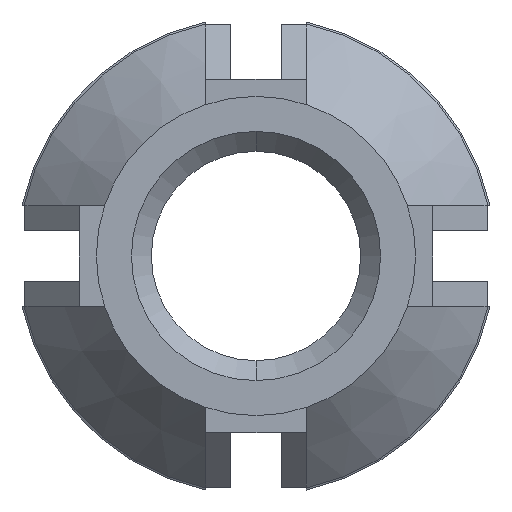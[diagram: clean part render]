
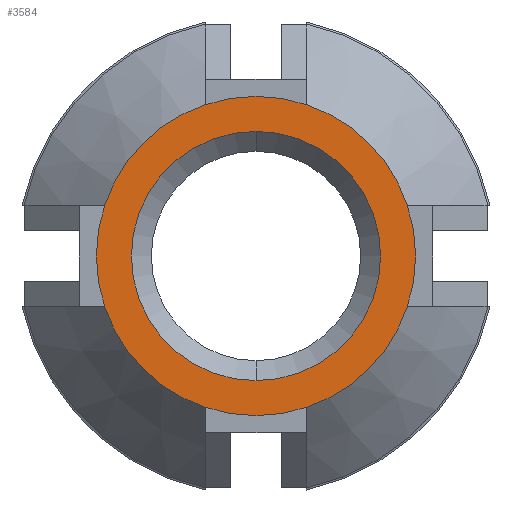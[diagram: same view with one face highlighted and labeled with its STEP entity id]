
A CAD part, front view. The second image highlights one B-rep face of the part: STEP entity #3584.
In plain terms, the highlighted planar face has unit normal (0, -1, 0).
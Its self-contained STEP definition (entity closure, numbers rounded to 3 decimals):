
#21 = CIRCLE ( 'NONE', #947, 3.175 ) ;
#25 = EDGE_CURVE ( 'NONE', #2876, #2709, #2178, .T. ) ;
#40 = EDGE_CURVE ( 'NONE', #694, #2876, #21, .T. ) ;
#64 = AXIS2_PLACEMENT_3D ( 'NONE', #1627, #3101, #317 ) ;
#65 = DIRECTION ( 'NONE',  ( 0., -1., 0. ) ) ;
#90 = ORIENTED_EDGE ( 'NONE', *, *, #2402, .T. ) ;
#121 = DIRECTION ( 'NONE',  ( 0., -1., 0. ) ) ;
#150 = ORIENTED_EDGE ( 'NONE', *, *, #699, .T. ) ;
#170 = VERTEX_POINT ( 'NONE', #1063 ) ;
#182 = ORIENTED_EDGE ( 'NONE', *, *, #40, .T. ) ;
#202 = CARTESIAN_POINT ( 'NONE',  ( 1., -7.874, -3.014 ) ) ;
#220 = AXIS2_PLACEMENT_3D ( 'NONE', #2215, #1417, #1657 ) ;
#250 = DIRECTION ( 'NONE',  ( 0., -1., 0. ) ) ;
#264 = CIRCLE ( 'NONE', #3468, 2.48 ) ;
#317 = DIRECTION ( 'NONE',  ( 1., 0., 0. ) ) ;
#505 = VERTEX_POINT ( 'NONE', #2380 ) ;
#571 = DIRECTION ( 'NONE',  ( 0., 0., 1. ) ) ;
#614 = CARTESIAN_POINT ( 'NONE',  ( 1., -7.874, 3.014 ) ) ;
#622 = CARTESIAN_POINT ( 'NONE',  ( 0., -7.874, 0. ) ) ;
#691 = CIRCLE ( 'NONE', #64, 3.175 ) ;
#693 = AXIS2_PLACEMENT_3D ( 'NONE', #2895, #65, #1174 ) ;
#694 = VERTEX_POINT ( 'NONE', #2494 ) ;
#699 = EDGE_CURVE ( 'NONE', #505, #2161, #1336, .T. ) ;
#707 = EDGE_LOOP ( 'NONE', ( #2055, #90, #182, #835, #2724, #743, #1244, #150 ) ) ;
#710 = EDGE_CURVE ( 'NONE', #3316, #505, #691, .T. ) ;
#730 = DIRECTION ( 'NONE',  ( 0., 1., 0. ) ) ;
#742 = CARTESIAN_POINT ( 'NONE',  ( 0., -7.874, 0. ) ) ;
#743 = ORIENTED_EDGE ( 'NONE', *, *, #831, .T. ) ;
#831 = EDGE_CURVE ( 'NONE', #1369, #3316, #1632, .T. ) ;
#835 = ORIENTED_EDGE ( 'NONE', *, *, #25, .T. ) ;
#849 = FACE_OUTER_BOUND ( 'NONE', #707, .T. ) ;
#875 = DIRECTION ( 'NONE',  ( 0., 0., 1. ) ) ;
#947 = AXIS2_PLACEMENT_3D ( 'NONE', #2299, #1452, #3414 ) ;
#962 = AXIS2_PLACEMENT_3D ( 'NONE', #742, #3211, #1040 ) ;
#1040 = DIRECTION ( 'NONE',  ( 0., 0., 1. ) ) ;
#1063 = CARTESIAN_POINT ( 'NONE',  ( 0., -7.874, 2.48 ) ) ;
#1074 = DIRECTION ( 'NONE',  ( 0., 0., -1. ) ) ;
#1161 = CARTESIAN_POINT ( 'NONE',  ( 3.014, -7.874, 1. ) ) ;
#1174 = DIRECTION ( 'NONE',  ( 0., 0., 1. ) ) ;
#1181 = DIRECTION ( 'NONE',  ( 0., 0., 1. ) ) ;
#1221 = ORIENTED_EDGE ( 'NONE', *, *, #1516, .T. ) ;
#1244 = ORIENTED_EDGE ( 'NONE', *, *, #710, .T. ) ;
#1306 = CIRCLE ( 'NONE', #2005, 3.175 ) ;
#1336 = CIRCLE ( 'NONE', #2277, 3.175 ) ;
#1369 = VERTEX_POINT ( 'NONE', #1161 ) ;
#1417 = DIRECTION ( 'NONE',  ( 0., 1., 0. ) ) ;
#1422 = CIRCLE ( 'NONE', #2000, 2.48 ) ;
#1452 = DIRECTION ( 'NONE',  ( 0., -1., 0. ) ) ;
#1516 = EDGE_CURVE ( 'NONE', #170, #3419, #264, .T. ) ;
#1543 = EDGE_CURVE ( 'NONE', #3419, #170, #1422, .T. ) ;
#1579 = AXIS2_PLACEMENT_3D ( 'NONE', #2039, #2908, #1181 ) ;
#1618 = FACE_BOUND ( 'NONE', #3066, .T. ) ;
#1627 = CARTESIAN_POINT ( 'NONE',  ( 0., -7.874, 0. ) ) ;
#1632 = CIRCLE ( 'NONE', #693, 3.175 ) ;
#1657 = DIRECTION ( 'NONE',  ( 0., 0., 1. ) ) ;
#1672 = AXIS2_PLACEMENT_3D ( 'NONE', #3042, #1936, #1074 ) ;
#1731 = EDGE_CURVE ( 'NONE', #2161, #2793, #1306, .T. ) ;
#1936 = DIRECTION ( 'NONE',  ( 0., -1., 0. ) ) ;
#2000 = AXIS2_PLACEMENT_3D ( 'NONE', #2366, #2420, #2146 ) ;
#2005 = AXIS2_PLACEMENT_3D ( 'NONE', #622, #121, #875 ) ;
#2039 = CARTESIAN_POINT ( 'NONE',  ( 0., -7.874, 0. ) ) ;
#2055 = ORIENTED_EDGE ( 'NONE', *, *, #1731, .T. ) ;
#2146 = DIRECTION ( 'NONE',  ( 0., 0., 1. ) ) ;
#2153 = CARTESIAN_POINT ( 'NONE',  ( -3.014, -7.874, -1. ) ) ;
#2161 = VERTEX_POINT ( 'NONE', #2788 ) ;
#2178 = CIRCLE ( 'NONE', #1579, 3.175 ) ;
#2215 = CARTESIAN_POINT ( 'NONE',  ( 0., -7.874, 0. ) ) ;
#2277 = AXIS2_PLACEMENT_3D ( 'NONE', #3373, #250, #571 ) ;
#2299 = CARTESIAN_POINT ( 'NONE',  ( 0., -7.874, 0. ) ) ;
#2366 = CARTESIAN_POINT ( 'NONE',  ( 0., -7.874, 0. ) ) ;
#2380 = CARTESIAN_POINT ( 'NONE',  ( -1., -7.874, 3.014 ) ) ;
#2402 = EDGE_CURVE ( 'NONE', #2793, #694, #3077, .T. ) ;
#2420 = DIRECTION ( 'NONE',  ( 0., 1., 0. ) ) ;
#2442 = DIRECTION ( 'NONE',  ( 0., 0., 1. ) ) ;
#2494 = CARTESIAN_POINT ( 'NONE',  ( -1., -7.874, -3.014 ) ) ;
#2653 = ORIENTED_EDGE ( 'NONE', *, *, #1543, .T. ) ;
#2709 = VERTEX_POINT ( 'NONE', #3454 ) ;
#2724 = ORIENTED_EDGE ( 'NONE', *, *, #3149, .T. ) ;
#2788 = CARTESIAN_POINT ( 'NONE',  ( -3.014, -7.874, 1. ) ) ;
#2793 = VERTEX_POINT ( 'NONE', #2153 ) ;
#2876 = VERTEX_POINT ( 'NONE', #202 ) ;
#2895 = CARTESIAN_POINT ( 'NONE',  ( 0., -7.874, 0. ) ) ;
#2908 = DIRECTION ( 'NONE',  ( 0., -1., 0. ) ) ;
#3042 = CARTESIAN_POINT ( 'NONE',  ( 0., -7.874, 0. ) ) ;
#3066 = EDGE_LOOP ( 'NONE', ( #2653, #1221 ) ) ;
#3077 = CIRCLE ( 'NONE', #962, 3.175 ) ;
#3101 = DIRECTION ( 'NONE',  ( 0., -1., 0. ) ) ;
#3137 = CIRCLE ( 'NONE', #1672, 3.175 ) ;
#3149 = EDGE_CURVE ( 'NONE', #2709, #1369, #3137, .T. ) ;
#3211 = DIRECTION ( 'NONE',  ( 0., -1., 0. ) ) ;
#3222 = CARTESIAN_POINT ( 'NONE',  ( 0., -7.874, -2.48 ) ) ;
#3316 = VERTEX_POINT ( 'NONE', #614 ) ;
#3373 = CARTESIAN_POINT ( 'NONE',  ( 0., -7.874, 0. ) ) ;
#3414 = DIRECTION ( 'NONE',  ( -1., 0., 0. ) ) ;
#3419 = VERTEX_POINT ( 'NONE', #3222 ) ;
#3454 = CARTESIAN_POINT ( 'NONE',  ( 3.014, -7.874, -1. ) ) ;
#3468 = AXIS2_PLACEMENT_3D ( 'NONE', #3520, #730, #2442 ) ;
#3520 = CARTESIAN_POINT ( 'NONE',  ( 0., -7.874, 0. ) ) ;
#3584 = ADVANCED_FACE ( 'NONE', ( #1618, #849 ), #3601, .F. ) ;
#3601 = PLANE ( 'NONE',  #220 ) ;
